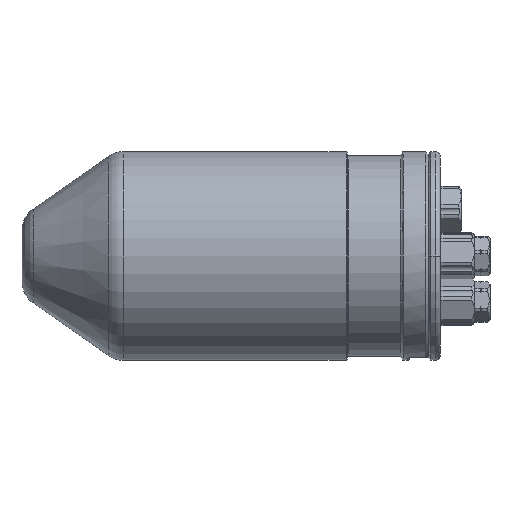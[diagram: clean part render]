
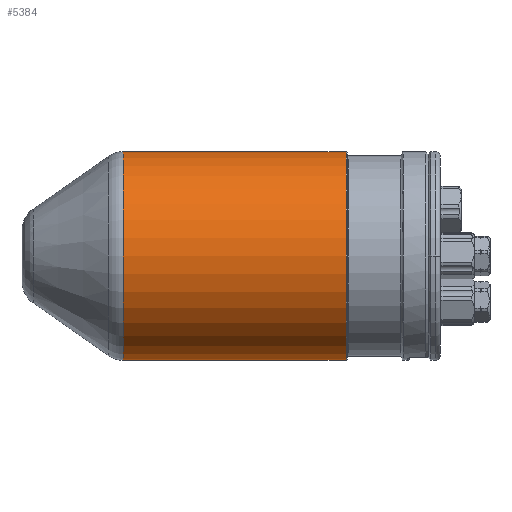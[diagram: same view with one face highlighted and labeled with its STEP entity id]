
A CAD part, left-side view. The second image highlights one B-rep face of the part: STEP entity #5384.
In plain terms, the highlighted cylindrical face has radius 40 mm (diameter 80 mm), a partial arc.
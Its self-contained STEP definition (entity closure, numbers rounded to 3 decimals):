
#185 = ORIENTED_EDGE ( 'NONE', *, *, #8331, .F. ) ;
#201 = VERTEX_POINT ( 'NONE', #8170 ) ;
#225 = AXIS2_PLACEMENT_3D ( 'NONE', #4177, #5342, #12344 ) ;
#249 = DIRECTION ( 'NONE',  ( 0., 0., 1. ) ) ;
#403 = CARTESIAN_POINT ( 'NONE',  ( 0., 4.672, -40. ) ) ;
#626 = ORIENTED_EDGE ( 'NONE', *, *, #11192, .T. ) ;
#1358 = CARTESIAN_POINT ( 'NONE',  ( 0., 36.172, -40. ) ) ;
#1485 = ORIENTED_EDGE ( 'NONE', *, *, #2898, .T. ) ;
#1577 = DIRECTION ( 'NONE',  ( 0., -1., 0. ) ) ;
#2171 = VERTEX_POINT ( 'NONE', #8278 ) ;
#2287 = CIRCLE ( 'NONE', #12231, 40. ) ;
#2615 = ORIENTED_EDGE ( 'NONE', *, *, #9530, .T. ) ;
#2898 = EDGE_CURVE ( 'NONE', #5356, #2171, #10183, .T. ) ;
#4177 = CARTESIAN_POINT ( 'NONE',  ( 0., 36.172, 0. ) ) ;
#5313 = CARTESIAN_POINT ( 'NONE',  ( 0., 121.519, 0. ) ) ;
#5342 = DIRECTION ( 'NONE',  ( 0., 1., 0. ) ) ;
#5356 = VERTEX_POINT ( 'NONE', #1358 ) ;
#5374 = DIRECTION ( 'NONE',  ( 0., -1., 0. ) ) ;
#5384 = ADVANCED_FACE ( 'NONE', ( #13389 ), #12090, .T. ) ;
#6350 = LINE ( 'NONE', #403, #9688 ) ;
#7565 = EDGE_LOOP ( 'NONE', ( #2615, #626, #1485, #185 ) ) ;
#8170 = CARTESIAN_POINT ( 'NONE',  ( 0., 121.519, 40. ) ) ;
#8278 = CARTESIAN_POINT ( 'NONE',  ( 0., 36.172, 40. ) ) ;
#8331 = EDGE_CURVE ( 'NONE', #201, #2171, #12165, .T. ) ;
#8854 = VERTEX_POINT ( 'NONE', #13768 ) ;
#9213 = DIRECTION ( 'NONE',  ( 0., -1., 0. ) ) ;
#9530 = EDGE_CURVE ( 'NONE', #201, #8854, #2287, .T. ) ;
#9688 = VECTOR ( 'NONE', #9912, 1000. ) ;
#9898 = CARTESIAN_POINT ( 'NONE',  ( 0., 4.672, 40. ) ) ;
#9912 = DIRECTION ( 'NONE',  ( 0., -1., 0. ) ) ;
#10183 = CIRCLE ( 'NONE', #225, 40. ) ;
#11072 = CARTESIAN_POINT ( 'NONE',  ( 0., 4.672, 0. ) ) ;
#11185 = VECTOR ( 'NONE', #5374, 1000. ) ;
#11192 = EDGE_CURVE ( 'NONE', #8854, #5356, #6350, .T. ) ;
#11862 = AXIS2_PLACEMENT_3D ( 'NONE', #11072, #1577, #249 ) ;
#12090 = CYLINDRICAL_SURFACE ( 'NONE', #11862, 40. ) ;
#12165 = LINE ( 'NONE', #9898, #11185 ) ;
#12231 = AXIS2_PLACEMENT_3D ( 'NONE', #5313, #9213, #13847 ) ;
#12344 = DIRECTION ( 'NONE',  ( 0., 0., -1. ) ) ;
#13389 = FACE_OUTER_BOUND ( 'NONE', #7565, .T. ) ;
#13768 = CARTESIAN_POINT ( 'NONE',  ( 0., 121.519, -40. ) ) ;
#13847 = DIRECTION ( 'NONE',  ( 0., 0., -1. ) ) ;
